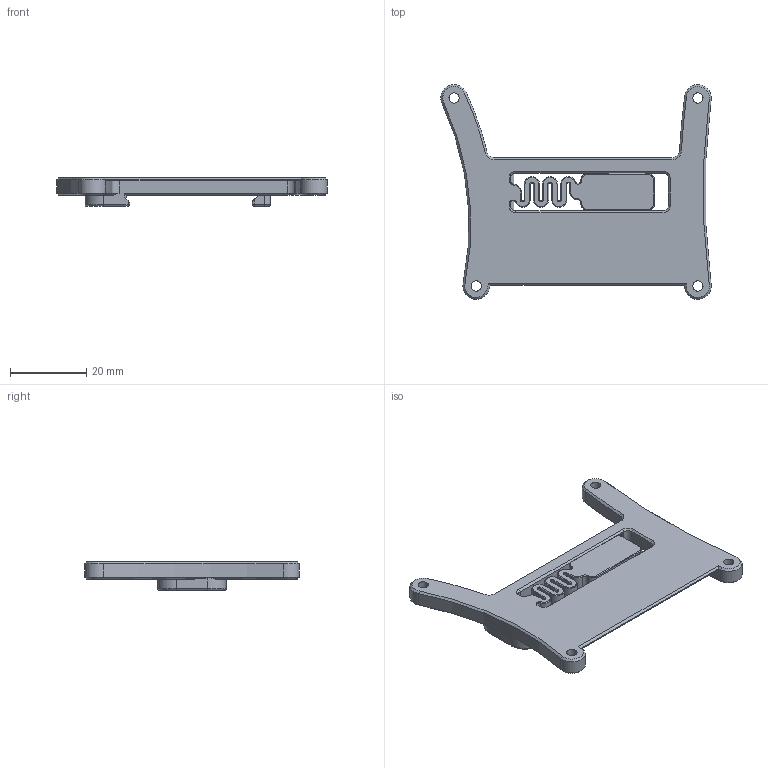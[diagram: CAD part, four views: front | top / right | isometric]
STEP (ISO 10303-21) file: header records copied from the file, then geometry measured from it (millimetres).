
FILE_DESCRIPTION(/* description */ (''),/* implementation_level */ '2;1');
FILE_NAME(/* name */ 'DIN Rail Bracket_BTT Pi 1.2.step',/* time_stamp */ '2023-12-25T14:58:20-06:00',/* author */ (''),/* organization */ (''),/* preprocessor_version */ 'ST-DEVELOPER v20',/* originating_system */ 'Autodesk Translation Framework v12.14.0.127',/* authorisation */ '');
FILE_SCHEMA (('AUTOMOTIVE_DESIGN { 1 0 10303 214 3 1 1 }'));
Length unit declared in the file: millimetre
Products named in the file (1): DIN Rail Bracket_BTT Pi 1.2
Bounding box: 71.03 x 56.4 x 7.5 mm (x, y, z)
Volume: 7771.6 mm3; surface area: 7251.8 mm2
Topology: 1 solids, 1 shells, 223 faces, 547 edges, 331 vertices
Faces by surface type: plane 95, cylinder 63, cone 57, sphere 4, torus 4
Full cylindrical faces by diameter (mm): 2.7 x4, 4.8 x4
Entity records: 6636 total; most frequent: CARTESIAN_POINT 1226, DIRECTION 1182, ORIENTED_EDGE 1094, EDGE_CURVE 547, AXIS2_PLACEMENT_3D 430, VERTEX_POINT 331, LINE 322, VECTOR 322
